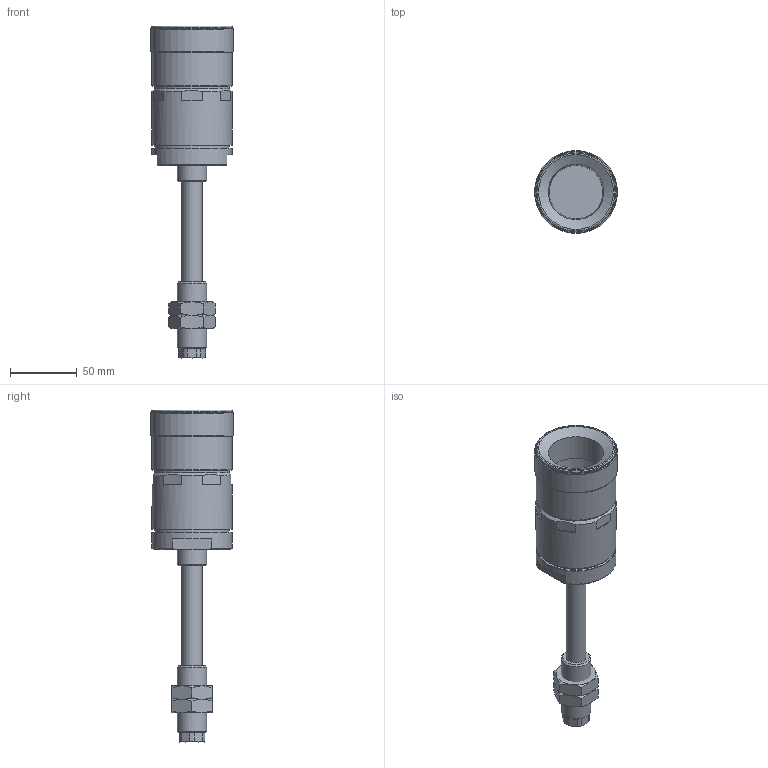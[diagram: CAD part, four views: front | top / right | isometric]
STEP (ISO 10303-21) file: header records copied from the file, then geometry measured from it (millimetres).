
FILE_DESCRIPTION(('STEP AP203'),'1');
FILE_NAME('SGC-40J-50-T.stp','2021-06-21T07:35:05',(' '),(' '),'Spatial InterOp 3D',' ',' ');
FILE_SCHEMA(('CONFIG_CONTROL_DESIGN'));
Length unit declared in the file: millimetre
Products named in the file (5): SGC-40J-50-T; SGC-40J-ZZ-T; 取付具; ナット
Assembly tree (4 placements, depth 2):
  SGC-40J-50-T
    SGC-40J-ZZ-T
    取付具
    ナット
    ナット
Bounding box: 62 x 62 x 248.5 mm (x, y, z)
Volume: 204022.5 mm3; surface area: 61639.7 mm2
Topology: 4 solids, 4 shells, 135 faces, 287 edges, 175 vertices
Faces by surface type: plane 57, cone 45, cylinder 28, torus 5
Full cylindrical faces by diameter (mm): 8 x1, 8.2 x1, 11.7 x1, 13.4 x1, 13.7 x1, 15 x3, 16 x1, 20.376 x2, 22 x2, 40 x1, 41.5 x1, 56 x2, 60 x4, 62 x1
Entity records: 3894 total; most frequent: CARTESIAN_POINT 956, DIRECTION 570, ORIENTED_EDGE 486, AXIS2_PLACEMENT_3D 257, EDGE_CURVE 243, EDGE_LOOP 196, VERTEX_POINT 171, FACE_OUTER_BOUND 162
